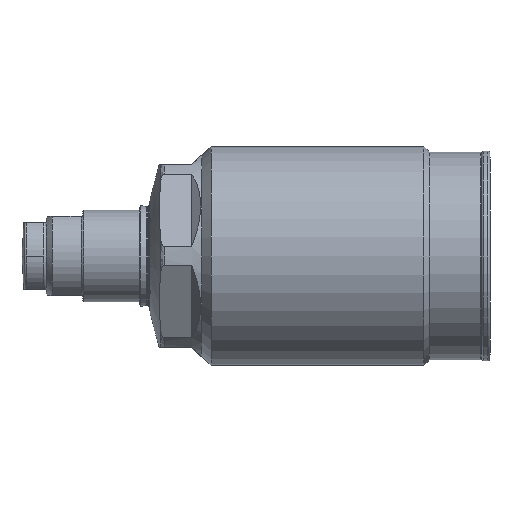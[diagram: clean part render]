
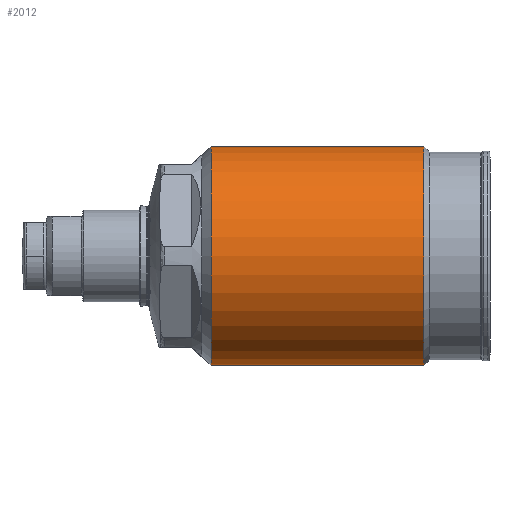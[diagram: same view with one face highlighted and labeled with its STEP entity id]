
A CAD part, left-side view. The second image highlights one B-rep face of the part: STEP entity #2012.
In plain terms, the highlighted cylindrical face has radius 18 mm (diameter 36 mm), a partial arc.
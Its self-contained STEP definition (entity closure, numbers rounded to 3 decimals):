
#1171=CYLINDRICAL_SURFACE('',#6672,18.);
#1447=LINE('',#10177,#1748);
#1448=LINE('',#10181,#1749);
#1748=VECTOR('',#8153,1.);
#1749=VECTOR('',#8156,1.);
#2012=ADVANCED_FACE('',(#2433),#1171,.T.);
#2433=FACE_OUTER_BOUND('',#2806,.T.);
#2806=EDGE_LOOP('',(#3930,#3931,#3932,#3933));
#3930=ORIENTED_EDGE('',*,*,#5488,.T.);
#3931=ORIENTED_EDGE('',*,*,#5556,.T.);
#3932=ORIENTED_EDGE('',*,*,#5490,.F.);
#3933=ORIENTED_EDGE('',*,*,#5555,.F.);
#4876=VERTEX_POINT('',#10172);
#4877=VERTEX_POINT('',#10174);
#4878=VERTEX_POINT('',#10178);
#4879=VERTEX_POINT('',#10180);
#5488=EDGE_CURVE('',#4878,#4876,#1447,.T.);
#5490=EDGE_CURVE('',#4879,#4877,#1448,.T.);
#5555=EDGE_CURVE('',#4878,#4879,#6006,.T.);
#5556=EDGE_CURVE('',#4876,#4877,#6007,.T.);
#6006=CIRCLE('',#6669,18.);
#6007=CIRCLE('',#6671,18.);
#6669=AXIS2_PLACEMENT_3D('',#10477,#8309,#8310);
#6671=AXIS2_PLACEMENT_3D('',#10479,#8313,#8314);
#6672=AXIS2_PLACEMENT_3D('',#10480,#8315,#8316);
#8153=DIRECTION('',(0.,1.,0.));
#8156=DIRECTION('',(0.,1.,0.));
#8309=DIRECTION('',(0.,-1.,0.));
#8310=DIRECTION('',(0.,0.,-1.));
#8313=DIRECTION('',(0.,-1.,0.));
#8314=DIRECTION('',(0.,0.,-1.));
#8315=DIRECTION('',(0.,-1.,0.));
#8316=DIRECTION('',(0.,0.,1.));
#10172=CARTESIAN_POINT('',(0.,50.36,18.));
#10174=CARTESIAN_POINT('',(0.,50.36,-18.));
#10177=CARTESIAN_POINT('',(0.,0.,18.));
#10178=CARTESIAN_POINT('',(0.,15.36,18.));
#10180=CARTESIAN_POINT('',(0.,15.36,-18.));
#10181=CARTESIAN_POINT('',(0.,0.,-18.));
#10477=CARTESIAN_POINT('',(0.,15.36,0.));
#10479=CARTESIAN_POINT('',(0.,50.36,0.));
#10480=CARTESIAN_POINT('',(0.,0.,0.));
